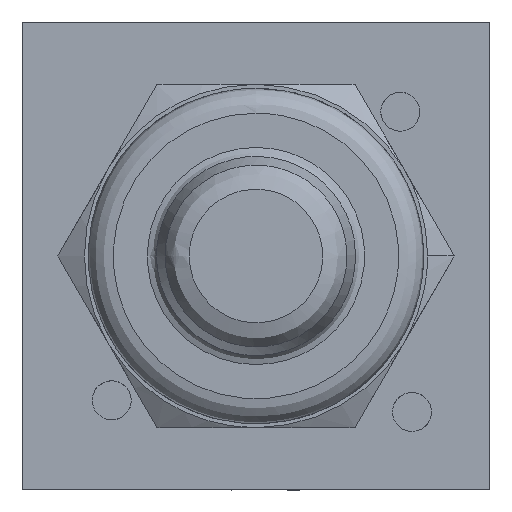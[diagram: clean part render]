
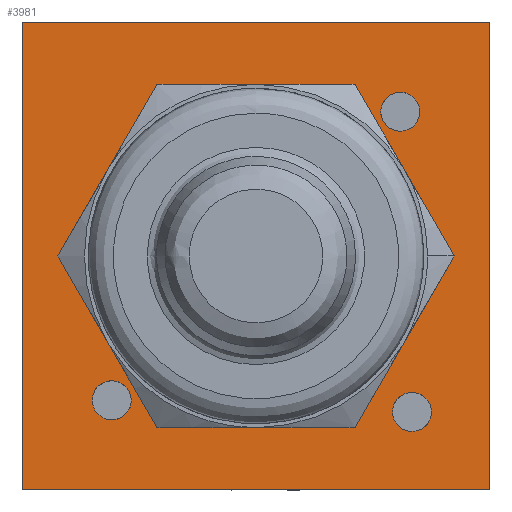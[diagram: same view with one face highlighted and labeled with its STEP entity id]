
A CAD part, left-side view. The second image highlights one B-rep face of the part: STEP entity #3981.
In plain terms, the highlighted free-form (B-spline) face has degree [1, 1] with [2, 2] control points.
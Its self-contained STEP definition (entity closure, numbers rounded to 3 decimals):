
#646=CARTESIAN_POINT('V52',(-88.7,-69.777,
   69.35));
#647=VERTEX_POINT('V52',#646);
#655=CARTESIAN_POINT('E75',(-88.7,-69.777,
   69.35));
#656=CARTESIAN_POINT('E75',(-88.7,-67.612,
   69.35));
#657=CARTESIAN_POINT('E75',(-88.7,-68.695,
   71.225));
#658=CARTESIAN_POINT('E75',(-88.7,-69.777,
   73.1));
#659=CARTESIAN_POINT('E75',(-88.7,-70.86,
   71.225));
#660=CARTESIAN_POINT('E75',(-88.7,-71.942,
   69.35));
#661=CARTESIAN_POINT('E75',(-88.7,-69.777,
   69.35));
#669=(BOUNDED_CURVE()B_SPLINE_CURVE(2,(#655,#656,#657,#658,#659,
   #660,#661),.CIRCULAR_ARC.,.T.,.U.)B_SPLINE_CURVE_WITH_KNOTS((3,
   2,2,3),(0.0,0.333,0.667,1.0),
   .UNSPECIFIED.)CURVE()GEOMETRIC_REPRESENTATION_ITEM()
   RATIONAL_B_SPLINE_CURVE((1.0,0.5,1.0,
   0.5,1.0,0.5,1.0))REPRESENTATION_ITEM(
   'E75'));
#670=EDGE_CURVE('E75',#647,#647,#669,.T.);
#724=CARTESIAN_POINT('V53',(-88.7,-69.027,
   88.6));
#725=VERTEX_POINT('V53',#724);
#733=CARTESIAN_POINT('E76',(-88.7,-69.027,
   88.6));
#734=CARTESIAN_POINT('E76',(-88.7,-66.862,
   88.6));
#735=CARTESIAN_POINT('E76',(-88.7,-67.945,
   90.475));
#736=CARTESIAN_POINT('E76',(-88.7,-69.027,
   92.35));
#737=CARTESIAN_POINT('E76',(-88.7,-70.11,
   90.475));
#738=CARTESIAN_POINT('E76',(-88.7,-71.192,
   88.6));
#739=CARTESIAN_POINT('E76',(-88.7,-69.027,
   88.6));
#747=(BOUNDED_CURVE()B_SPLINE_CURVE(2,(#733,#734,#735,#736,#737,
   #738,#739),.CIRCULAR_ARC.,.T.,.U.)B_SPLINE_CURVE_WITH_KNOTS((3,
   2,2,3),(0.0,0.333,0.667,1.0),
   .UNSPECIFIED.)CURVE()GEOMETRIC_REPRESENTATION_ITEM()
   RATIONAL_B_SPLINE_CURVE((1.0,0.5,1.0,
   0.5,1.0,0.5,1.0))REPRESENTATION_ITEM(
   'E76'));
#748=EDGE_CURVE('E76',#725,#725,#747,.T.);
#802=CARTESIAN_POINT('V54',(-88.7,-50.527,
   70.1));
#803=VERTEX_POINT('V54',#802);
#811=CARTESIAN_POINT('E77',(-88.7,-50.527,
   70.1));
#812=CARTESIAN_POINT('E77',(-88.7,-48.362,
   70.1));
#813=CARTESIAN_POINT('E77',(-88.7,-49.445,
   71.975));
#814=CARTESIAN_POINT('E77',(-88.7,-50.527,
   73.85));
#815=CARTESIAN_POINT('E77',(-88.7,-51.61,
   71.975));
#816=CARTESIAN_POINT('E77',(-88.7,-52.692,
   70.1));
#817=CARTESIAN_POINT('E77',(-88.7,-50.527,
   70.1));
#825=(BOUNDED_CURVE()B_SPLINE_CURVE(2,(#811,#812,#813,#814,#815,
   #816,#817),.CIRCULAR_ARC.,.T.,.U.)B_SPLINE_CURVE_WITH_KNOTS((3,
   2,2,3),(0.0,0.333,0.667,1.0),
   .UNSPECIFIED.)CURVE()GEOMETRIC_REPRESENTATION_ITEM()
   RATIONAL_B_SPLINE_CURVE((1.0,0.5,1.0,
   0.5,1.0,0.5,1.0))REPRESENTATION_ITEM(
   'E77'));
#826=EDGE_CURVE('E77',#803,#803,#825,.T.);
#3205=CARTESIAN_POINT('V55',(-88.7,-59.777,
   69.6));
#3206=VERTEX_POINT('V55',#3205);
#3214=CARTESIAN_POINT('E78',(-88.7,-59.777,
   69.6));
#3215=CARTESIAN_POINT('E78',(-88.7,-40.725,
   69.6));
#3216=CARTESIAN_POINT('E78',(-88.7,-50.251,
   86.1));
#3217=CARTESIAN_POINT('E78',(-88.7,-59.777,
   102.6));
#3218=CARTESIAN_POINT('E78',(-88.7,-69.303,
   86.1));
#3219=CARTESIAN_POINT('E78',(-88.7,-78.83,
   69.6));
#3220=CARTESIAN_POINT('E78',(-88.7,-59.777,
   69.6));
#3228=(BOUNDED_CURVE()B_SPLINE_CURVE(2,(#3214,#3215,#3216,#3217,
   #3218,#3219,#3220),.CIRCULAR_ARC.,.T.,.U.)
   B_SPLINE_CURVE_WITH_KNOTS((3,2,2,3),(0.0,0.333,
   0.667,1.0),.UNSPECIFIED.)CURVE()
   GEOMETRIC_REPRESENTATION_ITEM()RATIONAL_B_SPLINE_CURVE((1.0,
   0.5,1.0,0.5,1.0,0.5,1.0)
   )REPRESENTATION_ITEM('E78'));
#3229=EDGE_CURVE('E78',#3206,#3206,#3228,.T.);
#3839=CARTESIAN_POINT('V50',(-88.7,-74.777,
   95.6));
#3840=VERTEX_POINT('V50',#3839);
#3841=CARTESIAN_POINT('V51',(-88.7,-44.777,
   95.6));
#3842=VERTEX_POINT('V51',#3841);
#3843=CARTESIAN_POINT('E73',(-88.7,-74.777,
   95.6));
#3844=CARTESIAN_POINT('E73',(-88.7,-44.777,
   95.6));
#3845=QUASI_UNIFORM_CURVE('E73',1,(#3843,#3844),.POLYLINE_FORM.,.F.,
   .U.);
#3846=EDGE_CURVE('E73',#3840,#3842,#3845,.T.);
#3887=CARTESIAN_POINT('V49',(-88.7,-44.777,
   65.6));
#3888=VERTEX_POINT('V49',#3887);
#3889=CARTESIAN_POINT('E74',(-88.7,-44.777,
   95.6));
#3890=CARTESIAN_POINT('E74',(-88.7,-44.777,
   65.6));
#3891=QUASI_UNIFORM_CURVE('E74',1,(#3889,#3890),.POLYLINE_FORM.,.F.,
   .U.);
#3892=EDGE_CURVE('E74',#3842,#3888,#3891,.T.);
#3937=CARTESIAN_POINT('V48',(-88.7,-74.777,
   65.6));
#3938=VERTEX_POINT('V48',#3937);
#3939=CARTESIAN_POINT('E72',(-88.7,-74.777,
   65.6));
#3940=CARTESIAN_POINT('E72',(-88.7,-74.777,
   95.6));
#3941=QUASI_UNIFORM_CURVE('E72',1,(#3939,#3940),.POLYLINE_FORM.,.F.,
   .U.);
#3942=EDGE_CURVE('E72',#3938,#3840,#3941,.T.);
#3954=CARTESIAN_POINT('F31',(-88.7,-44.027,
   96.35));
#3955=CARTESIAN_POINT('F31',(-88.7,-44.027,
   64.85));
#3956=CARTESIAN_POINT('F31',(-88.7,-75.527,
   96.35));
#3957=CARTESIAN_POINT('F31',(-88.7,-75.527,
   64.85));
#3958=QUASI_UNIFORM_SURFACE('F31',1,1,((#3954,#3956),(#3955,#3957))
,.PLANE_SURF.,.F.,.F.,.U.);
#3959=CARTESIAN_POINT('E71',(-88.7,-74.777,
   65.6));
#3960=CARTESIAN_POINT('E71',(-88.7,-44.777,
   65.6));
#3961=QUASI_UNIFORM_CURVE('E71',1,(#3959,#3960),.POLYLINE_FORM.,.F.,
   .U.);
#3962=EDGE_CURVE('E71',#3938,#3888,#3961,.T.);
#3963=ORIENTED_EDGE('E71',*,*,#3962,.F.);
#3964=ORIENTED_EDGE('E72',*,*,#3942,.T.);
#3965=ORIENTED_EDGE('E73',*,*,#3846,.T.);
#3966=ORIENTED_EDGE('E74',*,*,#3892,.T.);
#3967=EDGE_LOOP('F31',(#3963,#3964,#3965,#3966));
#3968=FACE_OUTER_BOUND('F31',#3967,.T.);
#3969=ORIENTED_EDGE('F40',*,*,#3229,.T.);
#3970=EDGE_LOOP('F31',(#3969));
#3971=FACE_BOUND('F31',#3970,.T.);
#3972=ORIENTED_EDGE('F34',*,*,#826,.T.);
#3973=EDGE_LOOP('F31',(#3972));
#3974=FACE_BOUND('F31',#3973,.T.);
#3975=ORIENTED_EDGE('F33',*,*,#748,.T.);
#3976=EDGE_LOOP('F31',(#3975));
#3977=FACE_BOUND('F31',#3976,.T.);
#3978=ORIENTED_EDGE('F32',*,*,#670,.T.);
#3979=EDGE_LOOP('F31',(#3978));
#3980=FACE_BOUND('F31',#3979,.T.);
#3981=ADVANCED_FACE('F31',(#3968,#3971,#3974,#3977,#3980),#3958,.T.
   );
